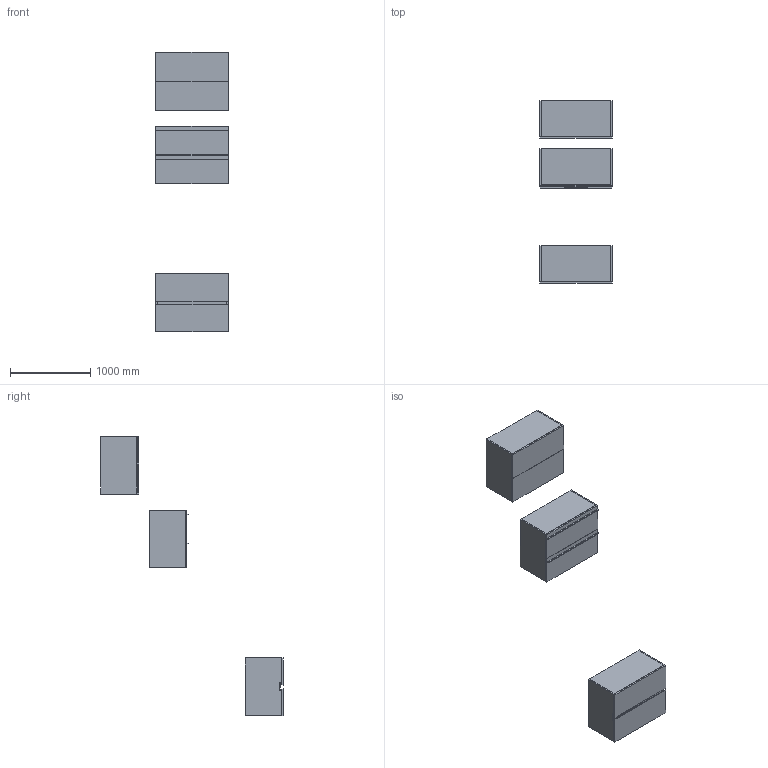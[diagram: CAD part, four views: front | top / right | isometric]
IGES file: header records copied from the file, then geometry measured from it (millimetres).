
Start section: Data from Parasolid IGES Translator 19.0.9, Copyright(c) 2006 Siemens PL M Software. All Rights Reserved.
Global section: file name: noorth-SI-H 72 D 47 W 90_8617.igs; native system: By Siemens PLM Incorporated; preprocessor: XPlus GENERIC/IGES 19.0.9; author: Noname; organization: Noname; date: 20200601.120343; units: metre
Bounding box: 900 x 2270 x 3480.01 mm (x, y, z)
Volume: 110127203.8 mm3; surface area: 17047270.8 mm2
Topology: 24 solids, 24 shells, 248 faces, 544 edges, 324 vertices
Faces by surface type: plane 164, extrusion 36, bspline 32, cylinder 16
